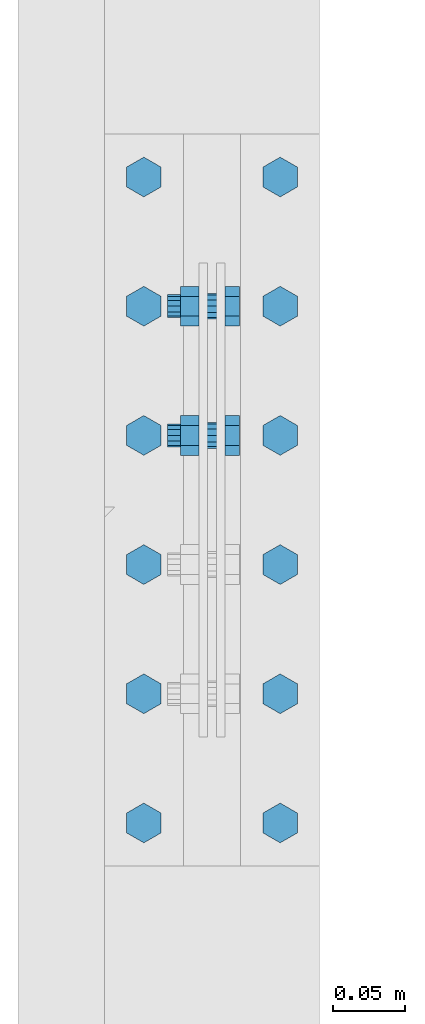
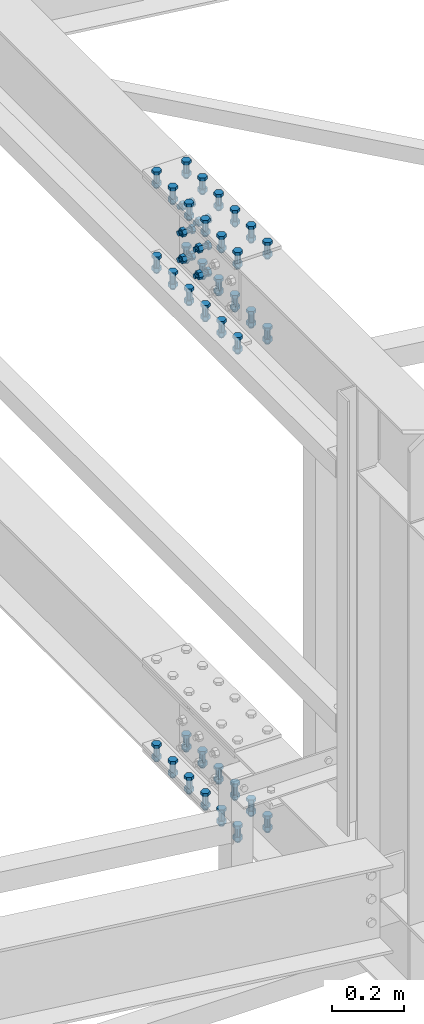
# One storey, part 159 of 3134: 13 mechanical fasteners, 2 elements without a shape of their own.
"""IFC2X3 building model written with IfcOpenShell, lengths in millimetres."""

from ifc_helpers import new_model, si_unit, frame, origin_with_axes, place, context, subcontext, project, spatial, faceted_brep, source, transform, mapped, material, type_object, element, aggregate, save


model = new_model("IFC2X3")

# Units and contexts
model_context = context("Model", 3, precision=1e-05, world=origin_with_axes())
body_context = subcontext(model_context, "Body", "Model", "MODEL_VIEW")
ifc_project = project(units=[si_unit("LENGTHUNIT", "METRE", prefix="MILLI"), si_unit("AREAUNIT", "SQUARE_METRE"), si_unit("VOLUMEUNIT", "CUBIC_METRE"), si_unit("MASSUNIT", "GRAM", prefix="KILO"), si_unit("TIMEUNIT", "SECOND"), si_unit("PLANEANGLEUNIT", "RADIAN"), si_unit("SOLIDANGLEUNIT", "STERADIAN"), si_unit("THERMODYNAMICTEMPERATUREUNIT", "DEGREE_CELSIUS"), si_unit("LUMINOUSINTENSITYUNIT", "LUMEN")], contexts=[model_context])

# Site, building, storey
site_placement = place(None, origin_with_axes())
site = spatial("IfcSite", under=ifc_project, at=site_placement, CompositionType="ELEMENT")
building_placement = place(site_placement, origin_with_axes())
building = spatial("IfcBuilding", under=site, at=building_placement, Name="Undefined", CompositionType="ELEMENT")
storey_placement = place(building_placement, origin_with_axes())
storey = spatial("IfcBuildingStorey", under=building, at=storey_placement, Name="Undefined", CompositionType="ELEMENT", Elevation=0.0)

# Assembly, mechanical fasteners
assembly_1_placement = place(storey_placement, origin_with_axes())
assembly_1 = element("IfcElementAssembly", 1, at=assembly_1_placement, inside=storey, Name="300", AssemblyPlace="NOTDEFINED", PredefinedType="RIGID_FRAME")
ifc_material = material(Name="8.8")
mechanical_fastener_type = type_object("IfcMechanicalFastenerType", Name="Bolt assembly")
shared_shape_1 = source(origin_with_axes(), body_context, "Body", "Brep", [
    faceted_brep([(13.856406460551, -19.0499999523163, 0.0), (6.92820323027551, -19.0499999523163, 12.0), (-6.92820323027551, -19.0499999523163, 12.0), (-13.856406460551, -19.0499999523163, 1.69692038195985e-15), (-6.92820323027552, -19.0499999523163, -12.0), (6.9282032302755, -19.0499999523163, -12.0), (6.9282032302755, -9.04999995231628, -12.0), (-6.92820323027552, -9.04999995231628, -12.0), (-13.856406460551, -9.04999995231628, 1.69692038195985e-15), (-6.92820323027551, -9.04999995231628, 12.0), (6.92820323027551, -9.04999995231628, 12.0), (13.856406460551, -9.04999995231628, 0.0), (8.0, -9.04999995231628, 0.0), (6.92820323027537, -9.04999995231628, 4.00000000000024), (3.99999999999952, -9.04999995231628, 6.92820323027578), (-8.29068785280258e-13, -9.04999995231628, 8.0), (-4.00000000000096, -9.04999995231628, 6.92820323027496), (-6.9282032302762, -9.04999995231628, 3.99999999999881), (-8.0, -9.04999995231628, -1.65813757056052e-12), (-6.92820323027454, -9.04999995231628, -4.00000000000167), (-3.99999999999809, -9.04999995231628, -6.92820323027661), (2.47832457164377e-12, -9.04999995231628, -8.0), (4.00000000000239, -9.04999995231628, -6.92820323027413), (6.92820323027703, -9.04999995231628, -3.99999999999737), (6.92820323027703, 30.9500000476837, -3.99999999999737), (4.00000000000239, 30.9500000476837, -6.92820323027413), (2.47832457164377e-12, 30.9500000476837, -8.0), (-3.99999999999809, 30.9500000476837, -6.92820323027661), (-6.92820323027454, 30.9500000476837, -4.00000000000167), (-8.0, 30.9500000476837, -1.65813757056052e-12), (-6.9282032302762, 30.9500000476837, 3.99999999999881), (-4.00000000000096, 30.9500000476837, 6.92820323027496), (-8.29068785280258e-13, 30.9500000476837, 8.0), (3.99999999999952, 30.9500000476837, 6.92820323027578), (6.92820323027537, 30.9500000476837, 4.00000000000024), (8.0, 30.9500000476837, 0.0), (13.856406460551, 9.04999995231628, 0.0), (6.92820323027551, 9.04999995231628, 12.0), (-6.92820323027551, 9.04999995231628, 12.0), (-13.856406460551, 9.04999995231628, 1.69692038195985e-15), (-6.92820323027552, 9.04999995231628, -12.0), (6.9282032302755, 9.04999995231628, -12.0), (6.9282032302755, 22.0499999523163, -12.0), (-6.92820323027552, 22.0499999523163, -12.0), (-13.856406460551, 22.0499999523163, 1.69692038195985e-15), (-6.92820323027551, 22.0499999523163, 12.0), (6.92820323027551, 22.0499999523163, 12.0), (13.856406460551, 22.0499999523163, 0.0)], [[[0, 1, 2, 3, 4, 5]], [[6, 7, 8, 9, 10, 11]], [[0, 11, 10, 1]], [[1, 10, 9, 2]], [[2, 9, 8, 3]], [[3, 8, 7, 4]], [[4, 7, 6, 5]], [[5, 6, 11, 0]], [[12, 13, 14, 15, 16, 17, 18, 19, 20, 21, 22, 23]], [[24, 25, 26, 27, 28, 29, 30, 31, 32, 33, 34, 35]], [[12, 35, 34, 13]], [[13, 34, 33, 14]], [[14, 33, 32, 15]], [[15, 32, 31, 16]], [[16, 31, 30, 17]], [[17, 30, 29, 18]], [[18, 29, 28, 19]], [[19, 28, 27, 20]], [[20, 27, 26, 21]], [[21, 26, 25, 22]], [[22, 25, 24, 23]], [[23, 24, 35, 12]], [[36, 37, 38, 39, 40, 41]], [[42, 43, 44, 45, 46, 47]], [[36, 47, 46, 37]], [[37, 46, 45, 38]], [[38, 45, 44, 39]], [[39, 44, 43, 40]], [[40, 43, 42, 41]], [[41, 42, 47, 36]]]),
    faceted_brep([(9.0, -8.94999995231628, 0.0), (7.79422863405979, -8.94999995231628, 4.50000000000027), (4.49999999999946, -8.94999995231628, 7.79422863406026), (-9.3270238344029e-13, -8.94999995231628, 9.0), (-4.50000000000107, -8.94999995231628, 7.79422863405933), (-7.79422863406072, -8.94999995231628, 4.49999999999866), (-9.0, -8.94999995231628, -1.86540476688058e-12), (-7.79422863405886, -8.94999995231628, -4.50000000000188), (-4.49999999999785, -8.94999995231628, -7.79422863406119), (2.78811514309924e-12, -8.94999995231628, -9.0), (4.50000000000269, -8.94999995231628, -7.7942286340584), (7.79422863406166, -8.94999995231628, -4.49999999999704), (7.79422863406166, -2.94999995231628, -4.49999999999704), (4.50000000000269, -2.94999995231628, -7.7942286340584), (2.78811514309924e-12, -2.94999995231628, -9.0), (-4.49999999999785, -2.94999995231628, -7.79422863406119), (-7.79422863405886, -2.94999995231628, -4.50000000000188), (-9.0, -2.94999995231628, -1.86540476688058e-12), (-7.79422863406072, -2.94999995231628, 4.49999999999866), (-4.50000000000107, -2.94999995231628, 7.79422863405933), (-9.3270238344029e-13, -2.94999995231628, 9.0), (4.49999999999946, -2.94999995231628, 7.79422863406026), (7.79422863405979, -2.94999995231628, 4.50000000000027), (9.0, -2.94999995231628, 0.0), (9.0, -3.04999995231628, 0.0), (7.79422863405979, -3.04999995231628, 4.50000000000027), (4.49999999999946, -3.04999995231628, 7.79422863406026), (-9.3270238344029e-13, -3.04999995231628, 9.0), (-4.50000000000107, -3.04999995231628, 7.79422863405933), (-7.79422863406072, -3.04999995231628, 4.49999999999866), (-9.0, -3.04999995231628, -1.86540476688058e-12), (-7.79422863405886, -3.04999995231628, -4.50000000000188), (-4.49999999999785, -3.04999995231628, -7.79422863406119), (2.78811514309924e-12, -3.04999995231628, -9.0), (4.50000000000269, -3.04999995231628, -7.7942286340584), (7.79422863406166, -3.04999995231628, -4.49999999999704), (7.79422863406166, 3.04999995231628, -4.49999999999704), (4.50000000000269, 3.04999995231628, -7.7942286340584), (2.78811514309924e-12, 3.04999995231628, -9.0), (-4.49999999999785, 3.04999995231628, -7.79422863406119), (-7.79422863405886, 3.04999995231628, -4.50000000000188), (-9.0, 3.04999995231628, -1.86540476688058e-12), (-7.79422863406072, 3.04999995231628, 4.49999999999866), (-4.50000000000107, 3.04999995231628, 7.79422863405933), (-9.3270238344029e-13, 3.04999995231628, 9.0), (4.49999999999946, 3.04999995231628, 7.79422863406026), (7.79422863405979, 3.04999995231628, 4.50000000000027), (9.0, 3.04999995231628, 0.0), (9.0, 2.95000000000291, 0.0), (7.79422863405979, 2.95000000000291, 4.50000000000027), (4.49999999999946, 2.95000000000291, 7.79422863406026), (-9.3270238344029e-13, 2.95000000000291, 9.0), (-4.50000000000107, 2.95000000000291, 7.79422863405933), (-7.79422863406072, 2.95000000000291, 4.49999999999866), (-9.0, 2.95000000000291, -1.86540476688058e-12), (-7.79422863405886, 2.95000000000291, -4.50000000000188), (-4.49999999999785, 2.95000000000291, -7.79422863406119), (2.78811514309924e-12, 2.95000000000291, -9.0), (4.50000000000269, 2.95000000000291, -7.7942286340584), (7.79422863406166, 2.95000000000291, -4.49999999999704), (7.79422863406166, 9.04999995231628, -4.49999999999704), (4.50000000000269, 9.04999995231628, -7.7942286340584), (2.78811514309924e-12, 9.04999995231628, -9.0), (-4.49999999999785, 9.04999995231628, -7.79422863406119), (-7.79422863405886, 9.04999995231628, -4.50000000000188), (-9.0, 9.04999995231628, -1.86540476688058e-12), (-7.79422863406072, 9.04999995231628, 4.49999999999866), (-4.50000000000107, 9.04999995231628, 7.79422863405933), (-9.3270238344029e-13, 9.04999995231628, 9.0), (4.49999999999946, 9.04999995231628, 7.79422863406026), (7.79422863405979, 9.04999995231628, 4.50000000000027), (9.0, 9.04999995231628, 0.0)], [[[0, 1, 2, 3, 4, 5, 6, 7, 8, 9, 10, 11]], [[12, 13, 14, 15, 16, 17, 18, 19, 20, 21, 22, 23]], [[0, 23, 22, 1]], [[1, 22, 21, 2]], [[2, 21, 20, 3]], [[3, 20, 19, 4]], [[4, 19, 18, 5]], [[5, 18, 17, 6]], [[6, 17, 16, 7]], [[7, 16, 15, 8]], [[8, 15, 14, 9]], [[9, 14, 13, 10]], [[10, 13, 12, 11]], [[11, 12, 23, 0]], [[24, 25, 26, 27, 28, 29, 30, 31, 32, 33, 34, 35]], [[36, 37, 38, 39, 40, 41, 42, 43, 44, 45, 46, 47]], [[24, 47, 46, 25]], [[25, 46, 45, 26]], [[26, 45, 44, 27]], [[27, 44, 43, 28]], [[28, 43, 42, 29]], [[29, 42, 41, 30]], [[30, 41, 40, 31]], [[31, 40, 39, 32]], [[32, 39, 38, 33]], [[33, 38, 37, 34]], [[34, 37, 36, 35]], [[35, 36, 47, 24]], [[48, 49, 50, 51, 52, 53, 54, 55, 56, 57, 58, 59]], [[60, 61, 62, 63, 64, 65, 66, 67, 68, 69, 70, 71]], [[48, 71, 70, 49]], [[49, 70, 69, 50]], [[50, 69, 68, 51]], [[51, 68, 67, 52]], [[52, 67, 66, 53]], [[53, 66, 65, 54]], [[54, 65, 64, 55]], [[55, 64, 63, 56]], [[56, 63, 62, 57]], [[57, 62, 61, 58]], [[58, 61, 60, 59]], [[59, 60, 71, 48]]]),
])
mechanical_fastener_1_placement = place(assembly_1_placement, frame((55875.0, 28369.9, 5741.5), z_axis=(0.0, 0.0, 1.0), x_axis=(0.0, 1.0, 0.0)))
mechanical_fastener_1 = element("IfcMechanicalFastener", 2, at=mechanical_fastener_1_placement, type_object=mechanical_fastener_type, material=ifc_material, Name="Bolt assembly", NominalDiameter=16.0, NominalLength=40.0, context=body_context, shape_type="MappedRepresentation", body=[
    mapped(shared_shape_1, transform((0.0, 0.0, -90.0))),
    mapped(shared_shape_1, transform((90.0, 0.0, -90.0))),
    mapped(shared_shape_1, transform((0.0, 0.0, 0.0))),
    mapped(shared_shape_1, transform((90.0, 0.0, 0.0))),
    mapped(shared_shape_1, transform((0.0, 0.0, 90.0))),
    mapped(shared_shape_1, transform((90.0, 0.0, 90.0))),
])
shared_shape_2 = source(origin_with_axes(), body_context, "Body", "Brep", [
    faceted_brep([(13.856406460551, -29.1999998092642, 0.0), (6.92820323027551, -29.1999998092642, 12.0), (-6.92820323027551, -29.1999998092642, 12.0), (-13.856406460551, -29.1999998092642, 1.69692038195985e-15), (-6.92820323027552, -29.1999998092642, -12.0), (6.9282032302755, -29.1999998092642, -12.0), (6.9282032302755, -19.199990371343, -12.0), (-6.92820323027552, -19.199990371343, -12.0), (-13.856406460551, -19.199990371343, 1.69692038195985e-15), (-6.92820323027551, -19.199990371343, 12.0), (6.92820323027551, -19.199990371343, 12.0), (13.856406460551, -19.199990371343, 0.0), (8.0, -19.1999998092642, 0.0), (6.92820323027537, -19.1999998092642, 4.00000000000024), (3.99999999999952, -19.1999998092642, 6.92820323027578), (-8.29068785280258e-13, -19.1999998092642, 8.0), (-4.00000000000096, -19.1999998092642, 6.92820323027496), (-6.9282032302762, -19.1999998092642, 3.99999999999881), (-8.0, -19.1999998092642, -1.65813757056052e-12), (-6.92820323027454, -19.1999998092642, -4.00000000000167), (-3.99999999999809, -19.1999998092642, -6.92820323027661), (2.47832457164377e-12, -19.1999998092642, -8.0), (4.00000000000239, -19.1999998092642, -6.92820323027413), (6.92820323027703, -19.1999998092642, -3.99999999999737), (6.92820323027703, 30.8000001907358, -3.99999999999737), (4.00000000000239, 30.8000001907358, -6.92820323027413), (2.47832457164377e-12, 30.8000001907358, -8.0), (-3.99999999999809, 30.8000001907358, -6.92820323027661), (-6.92820323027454, 30.8000001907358, -4.00000000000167), (-8.0, 30.8000001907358, -1.65813757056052e-12), (-6.9282032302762, 30.8000001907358, 3.99999999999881), (-4.00000000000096, 30.8000001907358, 6.92820323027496), (-8.29068785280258e-13, 30.8000001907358, 8.0), (3.99999999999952, 30.8000001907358, 6.92820323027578), (6.92820323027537, 30.8000001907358, 4.00000000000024), (8.0, 30.8000001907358, 0.0), (13.856406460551, 9.99999995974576, 0.0), (6.92820323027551, 9.99999995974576, 12.0), (-6.92820323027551, 9.99999995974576, 12.0), (-13.856406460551, 9.99999995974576, 1.69692038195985e-15), (-6.92820323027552, 9.99999995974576, -12.0), (6.9282032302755, 9.99999995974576, -12.0), (6.9282032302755, 22.9999913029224, -12.0), (-6.92820323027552, 22.9999913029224, -12.0), (-13.856406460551, 22.9999913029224, 1.69692038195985e-15), (-6.92820323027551, 22.9999913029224, 12.0), (6.92820323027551, 22.9999913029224, 12.0), (13.856406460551, 22.9999913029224, 0.0)], [[[0, 1, 2, 3, 4, 5]], [[6, 7, 8, 9, 10, 11]], [[0, 11, 10, 1]], [[1, 10, 9, 2]], [[2, 9, 8, 3]], [[3, 8, 7, 4]], [[4, 7, 6, 5]], [[5, 6, 11, 0]], [[12, 13, 14, 15, 16, 17, 18, 19, 20, 21, 22, 23]], [[24, 25, 26, 27, 28, 29, 30, 31, 32, 33, 34, 35]], [[12, 35, 34, 13]], [[13, 34, 33, 14]], [[14, 33, 32, 15]], [[15, 32, 31, 16]], [[16, 31, 30, 17]], [[17, 30, 29, 18]], [[18, 29, 28, 19]], [[19, 28, 27, 20]], [[20, 27, 26, 21]], [[21, 26, 25, 22]], [[22, 25, 24, 23]], [[23, 24, 35, 12]], [[36, 37, 38, 39, 40, 41]], [[42, 43, 44, 45, 46, 47]], [[36, 47, 46, 37]], [[37, 46, 45, 38]], [[38, 45, 44, 39]], [[39, 44, 43, 40]], [[40, 43, 42, 41]], [[41, 42, 47, 36]]]),
    faceted_brep([(9.0, -19.0999998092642, 0.0), (7.79422863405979, -19.0999998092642, 4.50000000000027), (4.49999999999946, -19.0999998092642, 7.79422863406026), (-9.3270238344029e-13, -19.0999998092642, 9.0), (-4.50000000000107, -19.0999998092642, 7.79422863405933), (-7.79422863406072, -19.0999998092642, 4.49999999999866), (-9.0, -19.0999998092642, -1.86540476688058e-12), (-7.79422863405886, -19.0999998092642, -4.50000000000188), (-4.49999999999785, -19.0999998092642, -7.79422863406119), (2.78811514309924e-12, -19.0999998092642, -9.0), (4.50000000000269, -19.0999998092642, -7.7942286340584), (7.79422863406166, -19.0999998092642, -4.49999999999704), (7.79422863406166, -9.09999037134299, -4.49999999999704), (4.50000000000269, -9.09999037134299, -7.7942286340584), (2.78811514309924e-12, -9.09999037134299, -9.0), (-4.49999999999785, -9.09999037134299, -7.79422863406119), (-7.79422863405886, -9.09999037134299, -4.50000000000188), (-9.0, -9.09999037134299, -1.86540476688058e-12), (-7.79422863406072, -9.09999037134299, 4.49999999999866), (-4.50000000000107, -9.09999037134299, 7.79422863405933), (-9.3270238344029e-13, -9.09999037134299, 9.0), (4.49999999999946, -9.09999037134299, 7.79422863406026), (7.79422863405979, -9.09999037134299, 4.50000000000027), (9.0, -9.09999037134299, 0.0), (9.0, -9.20000008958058, 0.0), (7.79422863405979, -9.20000008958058, 4.50000000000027), (4.49999999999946, -9.20000008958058, 7.79422863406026), (-9.3270238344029e-13, -9.20000008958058, 9.0), (-4.50000000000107, -9.20000008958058, 7.79422863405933), (-7.79422863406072, -9.20000008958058, 4.49999999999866), (-9.0, -9.20000008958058, -1.86540476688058e-12), (-7.79422863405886, -9.20000008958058, -4.50000000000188), (-4.49999999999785, -9.20000008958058, -7.79422863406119), (2.78811514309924e-12, -9.20000008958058, -9.0), (4.50000000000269, -9.20000008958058, -7.7942286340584), (7.79422863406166, -9.20000008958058, -4.49999999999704), (7.79422863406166, -3.46568413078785e-07, -4.49999999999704), (4.50000000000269, -3.46568413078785e-07, -7.7942286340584), (2.78811514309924e-12, -3.46568413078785e-07, -9.0), (-4.49999999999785, -3.46568413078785e-07, -7.79422863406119), (-7.79422863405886, -3.46568413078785e-07, -4.50000000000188), (-9.0, -3.46568413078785e-07, -1.86540476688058e-12), (-7.79422863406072, -3.46568413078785e-07, 4.49999999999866), (-4.50000000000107, -3.46568413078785e-07, 7.79422863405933), (-9.3270238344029e-13, -3.46568413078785e-07, 9.0), (4.49999999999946, -3.46568413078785e-07, 7.79422863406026), (7.79422863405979, -3.46568413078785e-07, 4.50000000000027), (9.0, -3.46568413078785e-07, 0.0), (9.0, -0.1, 0.0), (7.79422863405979, -0.1, 4.50000000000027), (4.49999999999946, -0.1, 7.79422863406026), (-9.3270238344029e-13, -0.1, 9.0), (-4.50000000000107, -0.1, 7.79422863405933), (-7.79422863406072, -0.1, 4.49999999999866), (-9.0, -0.1, -1.86540476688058e-12), (-7.79422863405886, -0.1, -4.50000000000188), (-4.49999999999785, -0.1, -7.79422863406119), (2.78811514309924e-12, -0.1, -9.0), (4.50000000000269, -0.1, -7.7942286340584), (7.79422863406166, -0.1, -4.49999999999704), (7.79422863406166, 9.99999995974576, -4.49999999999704), (4.50000000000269, 9.99999995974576, -7.7942286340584), (2.78811514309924e-12, 9.99999995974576, -9.0), (-4.49999999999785, 9.99999995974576, -7.79422863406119), (-7.79422863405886, 9.99999995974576, -4.50000000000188), (-9.0, 9.99999995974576, -1.86540476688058e-12), (-7.79422863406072, 9.99999995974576, 4.49999999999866), (-4.50000000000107, 9.99999995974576, 7.79422863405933), (-9.3270238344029e-13, 9.99999995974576, 9.0), (4.49999999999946, 9.99999995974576, 7.79422863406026), (7.79422863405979, 9.99999995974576, 4.50000000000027), (9.0, 9.99999995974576, 0.0)], [[[0, 1, 2, 3, 4, 5, 6, 7, 8, 9, 10, 11]], [[12, 13, 14, 15, 16, 17, 18, 19, 20, 21, 22, 23]], [[0, 23, 22, 1]], [[1, 22, 21, 2]], [[2, 21, 20, 3]], [[3, 20, 19, 4]], [[4, 19, 18, 5]], [[5, 18, 17, 6]], [[6, 17, 16, 7]], [[7, 16, 15, 8]], [[8, 15, 14, 9]], [[9, 14, 13, 10]], [[10, 13, 12, 11]], [[11, 12, 23, 0]], [[24, 25, 26, 27, 28, 29, 30, 31, 32, 33, 34, 35]], [[36, 37, 38, 39, 40, 41, 42, 43, 44, 45, 46, 47]], [[24, 47, 46, 25]], [[25, 46, 45, 26]], [[26, 45, 44, 27]], [[27, 44, 43, 28]], [[28, 43, 42, 29]], [[29, 42, 41, 30]], [[30, 41, 40, 31]], [[31, 40, 39, 32]], [[32, 39, 38, 33]], [[33, 38, 37, 34]], [[34, 37, 36, 35]], [[35, 36, 47, 24]], [[48, 49, 50, 51, 52, 53, 54, 55, 56, 57, 58, 59]], [[60, 61, 62, 63, 64, 65, 66, 67, 68, 69, 70, 71]], [[48, 71, 70, 49]], [[49, 70, 69, 50]], [[50, 69, 68, 51]], [[51, 68, 67, 52]], [[52, 67, 66, 53]], [[53, 66, 65, 54]], [[54, 65, 64, 55]], [[55, 64, 63, 56]], [[56, 63, 62, 57]], [[57, 62, 61, 58]], [[58, 61, 60, 59]], [[59, 60, 71, 48]]]),
])
mechanical_fastener_2_placement = place(assembly_1_placement, frame((55922.5, 28369.9, 5880.80000019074), z_axis=(-1.0, 0.0, 0.0), x_axis=(0.0, 1.0, 0.0)))
mechanical_fastener_2 = element("IfcMechanicalFastener", 3, at=mechanical_fastener_2_placement, type_object=mechanical_fastener_type, material=ifc_material, Name="Bolt assembly", NominalDiameter=16.0, NominalLength=50.0, context=body_context, shape_type="MappedRepresentation", body=[
    mapped(shared_shape_2, transform((0.0, 0.0, 0.0))),
    mapped(shared_shape_2, transform((90.0, 0.0, 0.0))),
    mapped(shared_shape_2, transform((180.0, 0.0, 0.0))),
])
mechanical_fastener_3_placement = place(assembly_1_placement, frame((55827.5, 28369.9, 5880.80000019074), z_axis=(-1.0, 0.0, 0.0), x_axis=(0.0, 1.0, 0.0)))
mechanical_fastener_3 = element("IfcMechanicalFastener", 4, at=mechanical_fastener_3_placement, type_object=mechanical_fastener_type, material=ifc_material, Name="Bolt assembly", NominalDiameter=16.0, NominalLength=50.0, context=body_context, shape_type="MappedRepresentation", body=[
    mapped(shared_shape_2, transform((0.0, 0.0, 0.0))),
    mapped(shared_shape_2, transform((90.0, 0.0, 0.0))),
    mapped(shared_shape_2, transform((180.0, 0.0, 0.0))),
])

assembly_2_placement = place(storey_placement, origin_with_axes())
assembly_2 = element("IfcElementAssembly", 5, at=assembly_2_placement, inside=storey, Name="300", AssemblyPlace="NOTDEFINED", PredefinedType="RIGID_FRAME")
mechanical_fastener_4_placement = place(assembly_2_placement, frame((55827.5, 28099.9, 5880.80000019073), z_axis=(-1.0, 0.0, 0.0), x_axis=(0.0, 1.0, 0.0)))
mechanical_fastener_4 = element("IfcMechanicalFastener", 6, at=mechanical_fastener_4_placement, type_object=mechanical_fastener_type, material=ifc_material, Name="Bolt assembly", NominalDiameter=16.0, NominalLength=50.0, context=body_context, shape_type="MappedRepresentation", body=[
    mapped(shared_shape_2, transform((0.0, 0.0, 0.0))),
    mapped(shared_shape_2, transform((90.0, 0.0, 0.0))),
    mapped(shared_shape_2, transform((180.0, 0.0, 0.0))),
])
mechanical_fastener_5_placement = place(assembly_2_placement, frame((55922.5, 28099.9, 5880.80000019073), z_axis=(-1.0, 0.0, 0.0), x_axis=(0.0, 1.0, 0.0)))
mechanical_fastener_5 = element("IfcMechanicalFastener", 7, at=mechanical_fastener_5_placement, type_object=mechanical_fastener_type, material=ifc_material, Name="Bolt assembly", NominalDiameter=16.0, NominalLength=50.0, context=body_context, shape_type="MappedRepresentation", body=[
    mapped(shared_shape_2, transform((0.0, 0.0, 0.0))),
    mapped(shared_shape_2, transform((90.0, 0.0, 0.0))),
    mapped(shared_shape_2, transform((180.0, 0.0, 0.0))),
])
shared_shape_3 = source(origin_with_axes(), body_context, "Body", "Brep", [
    faceted_brep([(13.856406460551, -20.0, 0.0), (6.92820323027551, -20.0, 12.0), (-6.92820323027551, -20.0, 12.0), (-13.856406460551, -20.0, 1.69692038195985e-15), (-6.92820323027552, -20.0, -12.0), (6.9282032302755, -20.0, -12.0), (6.9282032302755, -10.0, -12.0), (-6.92820323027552, -10.0, -12.0), (-13.856406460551, -10.0, 1.69692038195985e-15), (-6.92820323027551, -10.0, 12.0), (6.92820323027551, -10.0, 12.0), (13.856406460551, -10.0, 0.0), (8.0, -10.0, 0.0), (6.92820323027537, -10.0, 4.00000000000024), (3.99999999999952, -10.0, 6.92820323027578), (-8.29068785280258e-13, -10.0, 8.0), (-4.00000000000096, -10.0, 6.92820323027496), (-6.9282032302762, -10.0, 3.99999999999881), (-8.0, -10.0, -1.65813757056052e-12), (-6.92820323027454, -10.0, -4.00000000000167), (-3.99999999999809, -10.0, -6.92820323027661), (2.47832457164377e-12, -10.0, -8.0), (4.00000000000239, -10.0, -6.92820323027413), (6.92820323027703, -10.0, -3.99999999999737), (6.92820323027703, 40.0, -3.99999999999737), (4.00000000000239, 40.0, -6.92820323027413), (2.47832457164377e-12, 40.0, -8.0), (-3.99999999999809, 40.0, -6.92820323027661), (-6.92820323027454, 40.0, -4.00000000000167), (-8.0, 40.0, -1.65813757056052e-12), (-6.9282032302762, 40.0, 3.99999999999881), (-4.00000000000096, 40.0, 6.92820323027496), (-8.29068785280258e-13, 40.0, 8.0), (3.99999999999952, 40.0, 6.92820323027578), (6.92820323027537, 40.0, 4.00000000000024), (8.0, 40.0, 0.0), (13.856406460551, 19.1999998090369, 0.0), (6.92820323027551, 19.1999998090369, 12.0), (-6.92820323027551, 19.1999998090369, 12.0), (-13.856406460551, 19.1999998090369, 1.69692038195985e-15), (-6.92820323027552, 19.1999998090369, -12.0), (6.9282032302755, 19.1999998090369, -12.0), (6.9282032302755, 32.1999998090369, -12.0), (-6.92820323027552, 32.1999998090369, -12.0), (-13.856406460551, 32.1999998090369, 1.69692038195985e-15), (-6.92820323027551, 32.1999998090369, 12.0), (6.92820323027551, 32.1999998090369, 12.0), (13.856406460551, 32.1999998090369, 0.0)], [[[0, 1, 2, 3, 4, 5]], [[6, 7, 8, 9, 10, 11]], [[0, 11, 10, 1]], [[1, 10, 9, 2]], [[2, 9, 8, 3]], [[3, 8, 7, 4]], [[4, 7, 6, 5]], [[5, 6, 11, 0]], [[12, 13, 14, 15, 16, 17, 18, 19, 20, 21, 22, 23]], [[24, 25, 26, 27, 28, 29, 30, 31, 32, 33, 34, 35]], [[12, 35, 34, 13]], [[13, 34, 33, 14]], [[14, 33, 32, 15]], [[15, 32, 31, 16]], [[16, 31, 30, 17]], [[17, 30, 29, 18]], [[18, 29, 28, 19]], [[19, 28, 27, 20]], [[20, 27, 26, 21]], [[21, 26, 25, 22]], [[22, 25, 24, 23]], [[23, 24, 35, 12]], [[36, 37, 38, 39, 40, 41]], [[42, 43, 44, 45, 46, 47]], [[36, 47, 46, 37]], [[37, 46, 45, 38]], [[38, 45, 44, 39]], [[39, 44, 43, 40]], [[40, 43, 42, 41]], [[41, 42, 47, 36]]]),
    faceted_brep([(9.0, 9.09999980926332, 0.0), (7.79422863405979, 9.09999980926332, 4.50000000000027), (4.49999999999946, 9.09999980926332, 7.79422863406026), (-9.3270238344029e-13, 9.09999980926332, 9.0), (-4.50000000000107, 9.09999980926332, 7.79422863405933), (-7.79422863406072, 9.09999980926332, 4.49999999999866), (-9.0, 9.09999980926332, -1.86540476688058e-12), (-7.79422863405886, 9.09999980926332, -4.50000000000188), (-4.49999999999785, 9.09999980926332, -7.79422863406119), (2.78811514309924e-12, 9.09999980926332, -9.0), (4.50000000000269, 9.09999980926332, -7.7942286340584), (7.79422863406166, 9.09999980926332, -4.49999999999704), (7.79422863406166, 19.1999998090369, -4.49999999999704), (4.50000000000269, 19.1999998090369, -7.7942286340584), (2.78811514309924e-12, 19.1999998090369, -9.0), (-4.49999999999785, 19.1999998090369, -7.79422863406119), (-7.79422863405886, 19.1999998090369, -4.50000000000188), (-9.0, 19.1999998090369, -1.86540476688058e-12), (-7.79422863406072, 19.1999998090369, 4.49999999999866), (-4.50000000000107, 19.1999998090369, 7.79422863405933), (-9.3270238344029e-13, 19.1999998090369, 9.0), (4.49999999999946, 19.1999998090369, 7.79422863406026), (7.79422863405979, 19.1999998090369, 4.50000000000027), (9.0, 19.1999998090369, 0.0), (9.0, -3.46568413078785e-07, 0.0), (7.79422863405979, -3.46568413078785e-07, 4.50000000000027), (4.49999999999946, -3.46568413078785e-07, 7.79422863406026), (-9.3270238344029e-13, -3.46568413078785e-07, 9.0), (-4.50000000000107, -3.46568413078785e-07, 7.79422863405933), (-7.79422863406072, -3.46568413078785e-07, 4.49999999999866), (-9.0, -3.46568413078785e-07, -1.86540476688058e-12), (-7.79422863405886, -3.46568413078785e-07, -4.50000000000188), (-4.49999999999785, -3.46568413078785e-07, -7.79422863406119), (2.78811514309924e-12, -3.46568413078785e-07, -9.0), (4.50000000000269, -3.46568413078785e-07, -7.7942286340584), (7.79422863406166, -3.46568413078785e-07, -4.49999999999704), (7.79422863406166, 9.19999980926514, -4.49999999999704), (4.50000000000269, 9.19999980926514, -7.7942286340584), (2.78811514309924e-12, 9.19999980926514, -9.0), (-4.49999999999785, 9.19999980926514, -7.79422863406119), (-7.79422863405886, 9.19999980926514, -4.50000000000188), (-9.0, 9.19999980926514, -1.86540476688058e-12), (-7.79422863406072, 9.19999980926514, 4.49999999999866), (-4.50000000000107, 9.19999980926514, 7.79422863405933), (-9.3270238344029e-13, 9.19999980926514, 9.0), (4.49999999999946, 9.19999980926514, 7.79422863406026), (7.79422863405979, 9.19999980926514, 4.50000000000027), (9.0, 9.19999980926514, 0.0), (9.0, -9.89999997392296, 0.0), (7.79422863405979, -9.89999997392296, 4.50000000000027), (4.49999999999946, -9.89999997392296, 7.79422863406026), (-9.3270238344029e-13, -9.89999997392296, 9.0), (-4.50000000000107, -9.89999997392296, 7.79422863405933), (-7.79422863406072, -9.89999997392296, 4.49999999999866), (-9.0, -9.89999997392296, -1.86540476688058e-12), (-7.79422863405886, -9.89999997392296, -4.50000000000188), (-4.49999999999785, -9.89999997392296, -7.79422863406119), (2.78811514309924e-12, -9.89999997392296, -9.0), (4.50000000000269, -9.89999997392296, -7.7942286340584), (7.79422863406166, -9.89999997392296, -4.49999999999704), (7.79422863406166, 0.100000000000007, -4.49999999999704), (4.50000000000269, 0.100000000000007, -7.7942286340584), (2.78811514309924e-12, 0.100000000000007, -9.0), (-4.49999999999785, 0.100000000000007, -7.79422863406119), (-7.79422863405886, 0.100000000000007, -4.50000000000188), (-9.0, 0.100000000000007, -1.86540476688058e-12), (-7.79422863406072, 0.100000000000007, 4.49999999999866), (-4.50000000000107, 0.100000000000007, 7.79422863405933), (-9.3270238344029e-13, 0.100000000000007, 9.0), (4.49999999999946, 0.100000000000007, 7.79422863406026), (7.79422863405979, 0.100000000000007, 4.50000000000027), (9.0, 0.100000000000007, 0.0)], [[[0, 1, 2, 3, 4, 5, 6, 7, 8, 9, 10, 11]], [[12, 13, 14, 15, 16, 17, 18, 19, 20, 21, 22, 23]], [[0, 23, 22, 1]], [[1, 22, 21, 2]], [[2, 21, 20, 3]], [[3, 20, 19, 4]], [[4, 19, 18, 5]], [[5, 18, 17, 6]], [[6, 17, 16, 7]], [[7, 16, 15, 8]], [[8, 15, 14, 9]], [[9, 14, 13, 10]], [[10, 13, 12, 11]], [[11, 12, 23, 0]], [[24, 25, 26, 27, 28, 29, 30, 31, 32, 33, 34, 35]], [[36, 37, 38, 39, 40, 41, 42, 43, 44, 45, 46, 47]], [[24, 47, 46, 25]], [[25, 46, 45, 26]], [[26, 45, 44, 27]], [[27, 44, 43, 28]], [[28, 43, 42, 29]], [[29, 42, 41, 30]], [[30, 41, 40, 31]], [[31, 40, 39, 32]], [[32, 39, 38, 33]], [[33, 38, 37, 34]], [[34, 37, 36, 35]], [[35, 36, 47, 24]], [[48, 49, 50, 51, 52, 53, 54, 55, 56, 57, 58, 59]], [[60, 61, 62, 63, 64, 65, 66, 67, 68, 69, 70, 71]], [[48, 71, 70, 49]], [[49, 70, 69, 50]], [[50, 69, 68, 51]], [[51, 68, 67, 52]], [[52, 67, 66, 53]], [[53, 66, 65, 54]], [[54, 65, 64, 55]], [[55, 64, 63, 56]], [[56, 63, 62, 57]], [[57, 62, 61, 58]], [[58, 61, 60, 59]], [[59, 60, 71, 48]]]),
])
mechanical_fastener_6_placement = place(assembly_2_placement, frame((55827.4999999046, 28099.9, 3949.19999980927), z_axis=(-1.0, 0.0, 0.0), x_axis=(0.0, 1.0, 0.0)))
mechanical_fastener_6 = element("IfcMechanicalFastener", 8, at=mechanical_fastener_6_placement, type_object=mechanical_fastener_type, material=ifc_material, Name="Bolt assembly", NominalDiameter=16.0, NominalLength=50.0, context=body_context, shape_type="MappedRepresentation", body=[
    mapped(shared_shape_3, transform((0.0, 0.0, 0.0))),
    mapped(shared_shape_3, transform((90.0, 0.0, 0.0))),
    mapped(shared_shape_3, transform((180.0, 0.0, 0.0))),
])

# Mechanical fastener
mechanical_fastener_7_placement = place(assembly_1_placement, frame((55827.4999999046, 28369.9, 3949.19999980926), z_axis=(-1.0, 0.0, 0.0), x_axis=(0.0, 1.0, 0.0)))
mechanical_fastener_7 = element("IfcMechanicalFastener", 9, at=mechanical_fastener_7_placement, type_object=mechanical_fastener_type, material=ifc_material, Name="Bolt assembly", NominalDiameter=16.0, NominalLength=50.0, context=body_context, shape_type="MappedRepresentation", body=[
    mapped(shared_shape_3, transform((0.0, 0.0, 0.0))),
    mapped(shared_shape_3, transform((90.0, 0.0, 0.0))),
    mapped(shared_shape_3, transform((180.0, 0.0, 0.0))),
])

mechanical_fastener_8_placement = place(assembly_2_placement, frame((55922.4999999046, 28099.9, 3949.19999980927), z_axis=(-1.0, 0.0, 0.0), x_axis=(0.0, 1.0, 0.0)))
mechanical_fastener_8 = element("IfcMechanicalFastener", 10, at=mechanical_fastener_8_placement, type_object=mechanical_fastener_type, material=ifc_material, Name="Bolt assembly", NominalDiameter=16.0, NominalLength=50.0, context=body_context, shape_type="MappedRepresentation", body=[
    mapped(shared_shape_3, transform((0.0, 0.0, 0.0))),
    mapped(shared_shape_3, transform((90.0, 0.0, 0.0))),
    mapped(shared_shape_3, transform((180.0, 0.0, 0.0))),
])

mechanical_fastener_9_placement = place(assembly_1_placement, frame((55922.4999999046, 28369.9, 3949.19999980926), z_axis=(-1.0, 0.0, 0.0), x_axis=(0.0, 1.0, 0.0)))
mechanical_fastener_9 = element("IfcMechanicalFastener", 11, at=mechanical_fastener_9_placement, type_object=mechanical_fastener_type, material=ifc_material, Name="Bolt assembly", NominalDiameter=16.0, NominalLength=50.0, context=body_context, shape_type="MappedRepresentation", body=[
    mapped(shared_shape_3, transform((0.0, 0.0, 0.0))),
    mapped(shared_shape_3, transform((90.0, 0.0, 0.0))),
    mapped(shared_shape_3, transform((180.0, 0.0, 0.0))),
])

mechanical_fastener_10_placement = place(assembly_1_placement, frame((55827.4999999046, 28369.9, 5602.19999980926), z_axis=(-1.0, 0.0, 0.0), x_axis=(0.0, 1.0, 0.0)))
mechanical_fastener_10 = element("IfcMechanicalFastener", 12, at=mechanical_fastener_10_placement, type_object=mechanical_fastener_type, material=ifc_material, Name="Bolt assembly", NominalDiameter=16.0, NominalLength=50.0, context=body_context, shape_type="MappedRepresentation", body=[
    mapped(shared_shape_3, transform((0.0, 0.0, 0.0))),
    mapped(shared_shape_3, transform((90.0, 0.0, 0.0))),
    mapped(shared_shape_3, transform((180.0, 0.0, 0.0))),
])

mechanical_fastener_11_placement = place(assembly_1_placement, frame((55922.4999999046, 28369.9, 5602.19999980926), z_axis=(-1.0, 0.0, 0.0), x_axis=(0.0, 1.0, 0.0)))
mechanical_fastener_11 = element("IfcMechanicalFastener", 13, at=mechanical_fastener_11_placement, type_object=mechanical_fastener_type, material=ifc_material, Name="Bolt assembly", NominalDiameter=16.0, NominalLength=50.0, context=body_context, shape_type="MappedRepresentation", body=[
    mapped(shared_shape_3, transform((0.0, 0.0, 0.0))),
    mapped(shared_shape_3, transform((90.0, 0.0, 0.0))),
    mapped(shared_shape_3, transform((180.0, 0.0, 0.0))),
])

aggregate(assembly_1, [mechanical_fastener_7, mechanical_fastener_9, mechanical_fastener_1, mechanical_fastener_2, mechanical_fastener_10, mechanical_fastener_3, mechanical_fastener_11])

mechanical_fastener_12_placement = place(assembly_2_placement, frame((55922.4999999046, 28099.9, 5602.19999980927), z_axis=(-1.0, 0.0, 0.0), x_axis=(0.0, 1.0, 0.0)))
mechanical_fastener_12 = element("IfcMechanicalFastener", 14, at=mechanical_fastener_12_placement, type_object=mechanical_fastener_type, material=ifc_material, Name="Bolt assembly", NominalDiameter=16.0, NominalLength=50.0, context=body_context, shape_type="MappedRepresentation", body=[
    mapped(shared_shape_3, transform((0.0, 0.0, 0.0))),
    mapped(shared_shape_3, transform((90.0, 0.0, 0.0))),
    mapped(shared_shape_3, transform((180.0, 0.0, 0.0))),
])

mechanical_fastener_13_placement = place(assembly_2_placement, frame((55827.4999999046, 28099.9, 5602.19999980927), z_axis=(-1.0, 0.0, 0.0), x_axis=(0.0, 1.0, 0.0)))
mechanical_fastener_13 = element("IfcMechanicalFastener", 15, at=mechanical_fastener_13_placement, type_object=mechanical_fastener_type, material=ifc_material, Name="Bolt assembly", NominalDiameter=16.0, NominalLength=50.0, context=body_context, shape_type="MappedRepresentation", body=[
    mapped(shared_shape_3, transform((0.0, 0.0, 0.0))),
    mapped(shared_shape_3, transform((90.0, 0.0, 0.0))),
    mapped(shared_shape_3, transform((180.0, 0.0, 0.0))),
])

aggregate(assembly_2, [mechanical_fastener_6, mechanical_fastener_8, mechanical_fastener_12, mechanical_fastener_13, mechanical_fastener_4, mechanical_fastener_5])

save(model, "model.ifc")
